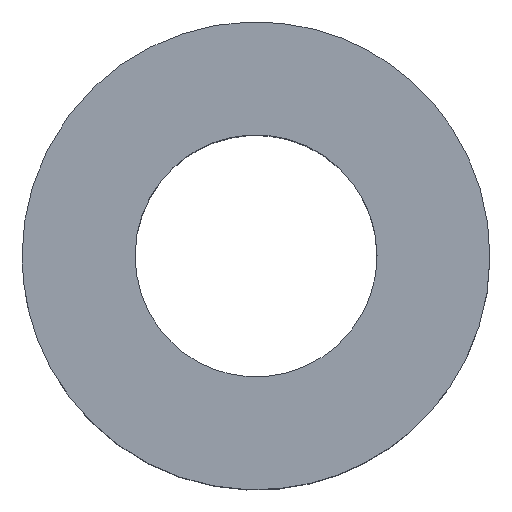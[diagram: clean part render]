
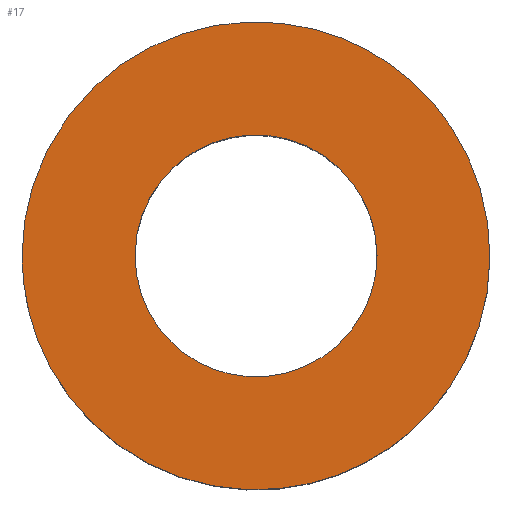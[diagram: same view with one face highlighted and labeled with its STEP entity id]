
A CAD part, top view. The second image highlights one B-rep face of the part: STEP entity #17.
In plain terms, the highlighted free-form (B-spline) face has degree [1, 1] with [2, 2] control points.
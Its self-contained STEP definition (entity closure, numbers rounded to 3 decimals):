
#17 = ADVANCED_FACE('',(#18,#32),#46,.F.);
#18 = FACE_BOUND('',#19,.T.);
#19 = EDGE_LOOP('',(#20));
#20 = ORIENTED_EDGE('',*,*,#21,.F.);
#21 = EDGE_CURVE('',#22,#22,#24,.T.);
#22 = VERTEX_POINT('',#23);
#23 = CARTESIAN_POINT('',(1.125,0.,2.));
#24 = ( BOUNDED_CURVE() B_SPLINE_CURVE(2,(#25,#26,#27,#28,#29,#30,#31),
.UNSPECIFIED.,.T.,.F.) B_SPLINE_CURVE_WITH_KNOTS((1,2,2,2,2,1),(
    -2.094,0.,2.094,4.189,6.283,
8.378),.UNSPECIFIED.) CURVE() GEOMETRIC_REPRESENTATION_ITEM() 
RATIONAL_B_SPLINE_CURVE((1.,0.5,1.,0.5,1.,0.5,1.)) REPRESENTATION_ITEM(
  '') );
#25 = CARTESIAN_POINT('',(1.125,0.,2.));
#26 = CARTESIAN_POINT('',(1.125,1.949,2.));
#27 = CARTESIAN_POINT('',(-0.563,0.974,2.));
#28 = CARTESIAN_POINT('',(-2.25,0.,2.));
#29 = CARTESIAN_POINT('',(-0.563,-0.974,2.));
#30 = CARTESIAN_POINT('',(1.125,-1.949,2.));
#31 = CARTESIAN_POINT('',(1.125,0.,2.));
#32 = FACE_BOUND('',#33,.T.);
#33 = EDGE_LOOP('',(#34));
#34 = ORIENTED_EDGE('',*,*,#35,.F.);
#35 = EDGE_CURVE('',#36,#36,#38,.T.);
#36 = VERTEX_POINT('',#37);
#37 = CARTESIAN_POINT('',(-2.175,0.,2.));
#38 = ( BOUNDED_CURVE() B_SPLINE_CURVE(2,(#39,#40,#41,#42,#43,#44,#45),
.UNSPECIFIED.,.T.,.F.) B_SPLINE_CURVE_WITH_KNOTS((1,2,2,2,2,1),(
    -2.094,0.,2.094,4.189,6.283,
8.378),.UNSPECIFIED.) CURVE() GEOMETRIC_REPRESENTATION_ITEM() 
RATIONAL_B_SPLINE_CURVE((1.,0.5,1.,0.5,1.,0.5,1.)) REPRESENTATION_ITEM(
  '') );
#39 = CARTESIAN_POINT('',(-2.175,0.,2.));
#40 = CARTESIAN_POINT('',(-2.175,3.767,2.));
#41 = CARTESIAN_POINT('',(1.088,1.884,2.));
#42 = CARTESIAN_POINT('',(4.35,0.,2.));
#43 = CARTESIAN_POINT('',(1.088,-1.884,2.));
#44 = CARTESIAN_POINT('',(-2.175,-3.767,2.));
#45 = CARTESIAN_POINT('',(-2.175,0.,2.));
#46 = B_SPLINE_SURFACE_WITH_KNOTS('',1,1,(
    (#47,#48)
    ,(#49,#50
    )),.UNSPECIFIED.,.F.,.F.,.F.,(2,2),(2,2),(-2.175,2.175),(-2.175,
    2.175),.PIECEWISE_BEZIER_KNOTS.);
#47 = CARTESIAN_POINT('',(2.175,-2.175,2.));
#48 = CARTESIAN_POINT('',(2.175,2.175,2.));
#49 = CARTESIAN_POINT('',(-2.175,-2.175,2.));
#50 = CARTESIAN_POINT('',(-2.175,2.175,2.));
